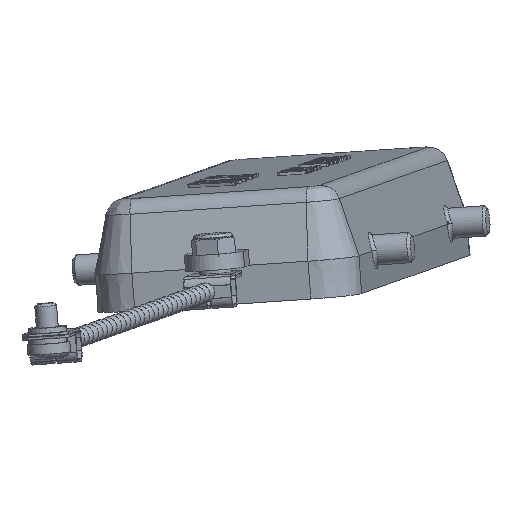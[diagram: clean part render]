
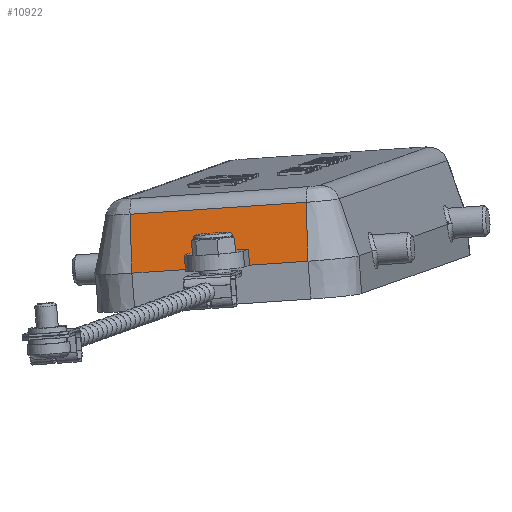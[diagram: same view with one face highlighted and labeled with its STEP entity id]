
A CAD part, left-side view. The second image highlights one B-rep face of the part: STEP entity #10922.
In plain terms, the highlighted planar face has unit normal (-0.963, 0.177, 0.202).
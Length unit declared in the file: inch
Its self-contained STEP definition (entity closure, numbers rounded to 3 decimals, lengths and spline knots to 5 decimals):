
#81=CARTESIAN_POINT('',(0.06979,1.37804,-0.13817));
#82=VERTEX_POINT('',#81);
#83=CARTESIAN_POINT('',(0.00708,1.00815,-0.11306));
#84=VERTEX_POINT('',#83);
#122=CARTESIAN_POINT('',(0.09159,1.38121,-0.03701));
#123=VERTEX_POINT('',#122);
#124=CARTESIAN_POINT('',(0.02888,1.01132,-0.01191));
#125=VERTEX_POINT('',#124);
#126=CARTESIAN_POINT('',(0.09159,1.38121,-0.03701));
#127=DIRECTION('',(-0.167,-0.984,0.067));
#128=VECTOR('',#127,0.376);
#129=LINE('',#126,#128);
#130=EDGE_CURVE('',#123,#125,#129,.T.);
#10065=CARTESIAN_POINT('',(0.06979,1.37804,-0.13817));
#10066=DIRECTION('',(0.211,0.031,0.977));
#10067=VECTOR('',#10066,0.10353);
#10068=LINE('',#10065,#10067);
#10069=EDGE_CURVE('',#82,#123,#10068,.T.);
#10087=CARTESIAN_POINT('',(0.02888,1.01132,-0.01191));
#10088=DIRECTION('',(-0.211,-0.031,-0.977));
#10089=VECTOR('',#10088,0.10353);
#10090=LINE('',#10087,#10089);
#10091=EDGE_CURVE('',#125,#84,#10090,.T.);
#10611=CARTESIAN_POINT('',(0.0244,0.64895,0.28422));
#10612=VERTEX_POINT('',#10611);
#10662=CARTESIAN_POINT('',(0.21286,1.76056,0.20877));
#10663=VERTEX_POINT('',#10662);
#10671=CARTESIAN_POINT('',(0.21286,1.76056,0.20877));
#10672=DIRECTION('',(-0.167,-0.984,0.067));
#10673=VECTOR('',#10672,1.13);
#10674=LINE('',#10671,#10673);
#10675=EDGE_CURVE('',#10663,#10612,#10674,.T.);
#10871=CARTESIAN_POINT('',(-0.0558,0.63729,-0.08789));
#10872=VERTEX_POINT('',#10871);
#10873=CARTESIAN_POINT('',(-0.0558,0.63729,-0.08789));
#10874=DIRECTION('',(0.211,0.031,0.977));
#10875=VECTOR('',#10874,0.38084);
#10876=LINE('',#10873,#10875);
#10877=EDGE_CURVE('',#10872,#10612,#10876,.T.);
#10890=CARTESIAN_POINT('',(-0.0558,0.63729,-0.08789));
#10891=DIRECTION('',(-0.963,0.177,0.202));
#10892=DIRECTION('',(-0.167,-0.984,0.067));
#10893=AXIS2_PLACEMENT_3D('',#10890,#10891,#10892);
#10894=PLANE('',#10893);
#10895=ORIENTED_EDGE('',*,*,#10091,.T.);
#10896=CARTESIAN_POINT('',(0.00708,1.00815,-0.11306));
#10897=DIRECTION('',(-0.167,-0.984,0.067));
#10898=VECTOR('',#10897,0.377);
#10899=LINE('',#10896,#10898);
#10900=EDGE_CURVE('',#84,#10872,#10899,.T.);
#10901=ORIENTED_EDGE('',*,*,#10900,.T.);
#10902=ORIENTED_EDGE('',*,*,#10877,.T.);
#10903=ORIENTED_EDGE('',*,*,#10675,.F.);
#10904=CARTESIAN_POINT('',(0.13267,1.7489,-0.16334));
#10905=VERTEX_POINT('',#10904);
#10906=CARTESIAN_POINT('',(0.13267,1.7489,-0.16334));
#10907=DIRECTION('',(0.211,0.031,0.977));
#10908=VECTOR('',#10907,0.38084);
#10909=LINE('',#10906,#10908);
#10910=EDGE_CURVE('',#10905,#10663,#10909,.T.);
#10911=ORIENTED_EDGE('',*,*,#10910,.F.);
#10912=CARTESIAN_POINT('',(0.13267,1.7489,-0.16334));
#10913=DIRECTION('',(-0.167,-0.984,0.067));
#10914=VECTOR('',#10913,0.377);
#10915=LINE('',#10912,#10914);
#10916=EDGE_CURVE('',#10905,#82,#10915,.T.);
#10917=ORIENTED_EDGE('',*,*,#10916,.T.);
#10918=ORIENTED_EDGE('',*,*,#10069,.T.);
#10919=ORIENTED_EDGE('',*,*,#130,.T.);
#10920=EDGE_LOOP('',(#10895,#10901,#10902,#10903,#10911,#10917,#10918,#10919));
#10921=FACE_OUTER_BOUND('',#10920,.T.);
#10922=ADVANCED_FACE('',(#10921),#10894,.T.);
